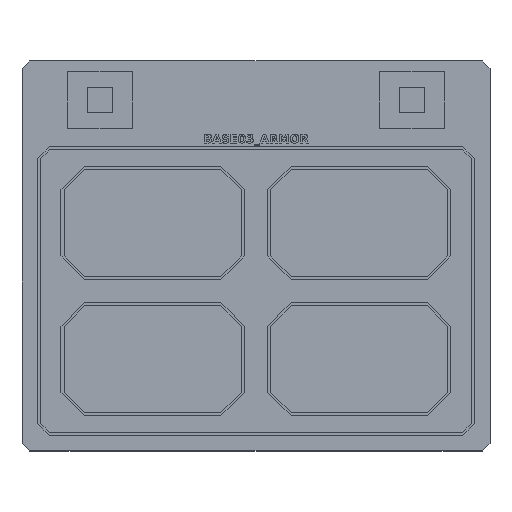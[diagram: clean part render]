
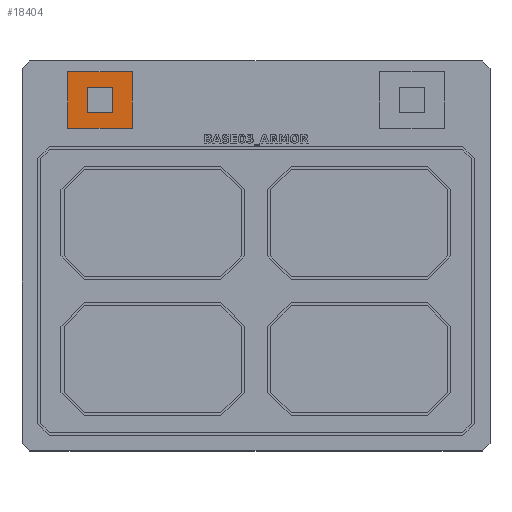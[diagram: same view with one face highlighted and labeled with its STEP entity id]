
A CAD part, top view. The second image highlights one B-rep face of the part: STEP entity #18404.
In plain terms, the highlighted planar face has unit normal (0, 0, 1).
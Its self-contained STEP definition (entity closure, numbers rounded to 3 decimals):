
#2453 = PLANE('',#2454);
#2454 = AXIS2_PLACEMENT_3D('',#2455,#2456,#2457);
#2455 = CARTESIAN_POINT('',(11.7,82.7,6.));
#2456 = DIRECTION('',(-0.,1.,0.));
#2457 = DIRECTION('',(0.,0.,1.));
#2479 = PLANE('',#2480);
#2480 = AXIS2_PLACEMENT_3D('',#2481,#2482,#2483);
#2481 = CARTESIAN_POINT('',(11.7,82.7,6.));
#2482 = DIRECTION('',(1.,0.,-0.));
#2483 = DIRECTION('',(0.,0.,1.));
#2505 = PLANE('',#2506);
#2506 = AXIS2_PLACEMENT_3D('',#2507,#2508,#2509);
#2507 = CARTESIAN_POINT('',(11.7,97.3,6.));
#2508 = DIRECTION('',(-0.,1.,0.));
#2509 = DIRECTION('',(0.,0.,1.));
#2529 = PLANE('',#2530);
#2530 = AXIS2_PLACEMENT_3D('',#2531,#2532,#2533);
#2531 = CARTESIAN_POINT('',(28.3,82.7,6.));
#2532 = DIRECTION('',(1.,0.,-0.));
#2533 = DIRECTION('',(0.,0.,1.));
#9783 = VERTEX_POINT('',#9784);
#9784 = CARTESIAN_POINT('',(28.3,82.7,6.));
#9805 = EDGE_CURVE('',#9806,#9783,#9808,.T.);
#9806 = VERTEX_POINT('',#9807);
#9807 = CARTESIAN_POINT('',(11.7,82.7,6.));
#9808 = SURFACE_CURVE('',#9809,(#9813,#9820),.PCURVE_S1.);
#9809 = LINE('',#9810,#9811);
#9810 = CARTESIAN_POINT('',(11.7,82.7,6.));
#9811 = VECTOR('',#9812,1.);
#9812 = DIRECTION('',(1.,0.,-0.));
#9813 = PCURVE('',#2453,#9814);
#9814 = DEFINITIONAL_REPRESENTATION('',(#9815),#9819);
#9815 = LINE('',#9816,#9817);
#9816 = CARTESIAN_POINT('',(0.,0.));
#9817 = VECTOR('',#9818,1.);
#9818 = DIRECTION('',(0.,1.));
#9819 = ( GEOMETRIC_REPRESENTATION_CONTEXT(2) 
PARAMETRIC_REPRESENTATION_CONTEXT() REPRESENTATION_CONTEXT('2D SPACE',''
  ) );
#9820 = PCURVE('',#9821,#9826);
#9821 = PLANE('',#9822);
#9822 = AXIS2_PLACEMENT_3D('',#9823,#9824,#9825);
#9823 = CARTESIAN_POINT('',(11.7,82.7,6.));
#9824 = DIRECTION('',(0.,0.,1.));
#9825 = DIRECTION('',(1.,0.,-0.));
#9826 = DEFINITIONAL_REPRESENTATION('',(#9827),#9831);
#9827 = LINE('',#9828,#9829);
#9828 = CARTESIAN_POINT('',(0.,0.));
#9829 = VECTOR('',#9830,1.);
#9830 = DIRECTION('',(1.,0.));
#9831 = ( GEOMETRIC_REPRESENTATION_CONTEXT(2) 
PARAMETRIC_REPRESENTATION_CONTEXT() REPRESENTATION_CONTEXT('2D SPACE',''
  ) );
#9859 = EDGE_CURVE('',#9783,#9860,#9862,.T.);
#9860 = VERTEX_POINT('',#9861);
#9861 = CARTESIAN_POINT('',(28.3,97.3,6.));
#9862 = SURFACE_CURVE('',#9863,(#9867,#9874),.PCURVE_S1.);
#9863 = LINE('',#9864,#9865);
#9864 = CARTESIAN_POINT('',(28.3,82.7,6.));
#9865 = VECTOR('',#9866,1.);
#9866 = DIRECTION('',(-0.,1.,0.));
#9867 = PCURVE('',#2529,#9868);
#9868 = DEFINITIONAL_REPRESENTATION('',(#9869),#9873);
#9869 = LINE('',#9870,#9871);
#9870 = CARTESIAN_POINT('',(0.,0.));
#9871 = VECTOR('',#9872,1.);
#9872 = DIRECTION('',(0.,-1.));
#9873 = ( GEOMETRIC_REPRESENTATION_CONTEXT(2) 
PARAMETRIC_REPRESENTATION_CONTEXT() REPRESENTATION_CONTEXT('2D SPACE',''
  ) );
#9874 = PCURVE('',#9821,#9875);
#9875 = DEFINITIONAL_REPRESENTATION('',(#9876),#9880);
#9876 = LINE('',#9877,#9878);
#9877 = CARTESIAN_POINT('',(16.6,0.));
#9878 = VECTOR('',#9879,1.);
#9879 = DIRECTION('',(0.,1.));
#9880 = ( GEOMETRIC_REPRESENTATION_CONTEXT(2) 
PARAMETRIC_REPRESENTATION_CONTEXT() REPRESENTATION_CONTEXT('2D SPACE',''
  ) );
#9908 = EDGE_CURVE('',#9806,#9909,#9911,.T.);
#9909 = VERTEX_POINT('',#9910);
#9910 = CARTESIAN_POINT('',(11.7,97.3,6.));
#9911 = SURFACE_CURVE('',#9912,(#9916,#9923),.PCURVE_S1.);
#9912 = LINE('',#9913,#9914);
#9913 = CARTESIAN_POINT('',(11.7,82.7,6.));
#9914 = VECTOR('',#9915,1.);
#9915 = DIRECTION('',(-0.,1.,0.));
#9916 = PCURVE('',#2479,#9917);
#9917 = DEFINITIONAL_REPRESENTATION('',(#9918),#9922);
#9918 = LINE('',#9919,#9920);
#9919 = CARTESIAN_POINT('',(0.,0.));
#9920 = VECTOR('',#9921,1.);
#9921 = DIRECTION('',(0.,-1.));
#9922 = ( GEOMETRIC_REPRESENTATION_CONTEXT(2) 
PARAMETRIC_REPRESENTATION_CONTEXT() REPRESENTATION_CONTEXT('2D SPACE',''
  ) );
#9923 = PCURVE('',#9821,#9924);
#9924 = DEFINITIONAL_REPRESENTATION('',(#9925),#9929);
#9925 = LINE('',#9926,#9927);
#9926 = CARTESIAN_POINT('',(0.,0.));
#9927 = VECTOR('',#9928,1.);
#9928 = DIRECTION('',(0.,1.));
#9929 = ( GEOMETRIC_REPRESENTATION_CONTEXT(2) 
PARAMETRIC_REPRESENTATION_CONTEXT() REPRESENTATION_CONTEXT('2D SPACE',''
  ) );
#9957 = EDGE_CURVE('',#9909,#9860,#9958,.T.);
#9958 = SURFACE_CURVE('',#9959,(#9963,#9970),.PCURVE_S1.);
#9959 = LINE('',#9960,#9961);
#9960 = CARTESIAN_POINT('',(11.7,97.3,6.));
#9961 = VECTOR('',#9962,1.);
#9962 = DIRECTION('',(1.,0.,-0.));
#9963 = PCURVE('',#2505,#9964);
#9964 = DEFINITIONAL_REPRESENTATION('',(#9965),#9969);
#9965 = LINE('',#9966,#9967);
#9966 = CARTESIAN_POINT('',(0.,0.));
#9967 = VECTOR('',#9968,1.);
#9968 = DIRECTION('',(0.,1.));
#9969 = ( GEOMETRIC_REPRESENTATION_CONTEXT(2) 
PARAMETRIC_REPRESENTATION_CONTEXT() REPRESENTATION_CONTEXT('2D SPACE',''
  ) );
#9970 = PCURVE('',#9821,#9971);
#9971 = DEFINITIONAL_REPRESENTATION('',(#9972),#9976);
#9972 = LINE('',#9973,#9974);
#9973 = CARTESIAN_POINT('',(0.,14.6));
#9974 = VECTOR('',#9975,1.);
#9975 = DIRECTION('',(1.,0.));
#9976 = ( GEOMETRIC_REPRESENTATION_CONTEXT(2) 
PARAMETRIC_REPRESENTATION_CONTEXT() REPRESENTATION_CONTEXT('2D SPACE',''
  ) );
#18404 = ADVANCED_FACE('',(#18405,#18411),#9821,.T.);
#18405 = FACE_BOUND('',#18406,.T.);
#18406 = EDGE_LOOP('',(#18407,#18408,#18409,#18410));
#18407 = ORIENTED_EDGE('',*,*,#9908,.F.);
#18408 = ORIENTED_EDGE('',*,*,#9805,.T.);
#18409 = ORIENTED_EDGE('',*,*,#9859,.T.);
#18410 = ORIENTED_EDGE('',*,*,#9957,.F.);
#18411 = FACE_BOUND('',#18412,.T.);
#18412 = EDGE_LOOP('',(#18413,#18441,#18467,#18493));
#18413 = ORIENTED_EDGE('',*,*,#18414,.T.);
#18414 = EDGE_CURVE('',#18415,#18417,#18419,.T.);
#18415 = VERTEX_POINT('',#18416);
#18416 = CARTESIAN_POINT('',(23.3,86.7,6.));
#18417 = VERTEX_POINT('',#18418);
#18418 = CARTESIAN_POINT('',(16.7,86.7,6.));
#18419 = SURFACE_CURVE('',#18420,(#18424,#18430),.PCURVE_S1.);
#18420 = LINE('',#18421,#18422);
#18421 = CARTESIAN_POINT('',(14.2,86.7,6.));
#18422 = VECTOR('',#18423,1.);
#18423 = DIRECTION('',(-1.,-0.,0.));
#18424 = PCURVE('',#9821,#18425);
#18425 = DEFINITIONAL_REPRESENTATION('',(#18426),#18429);
#18426 = B_SPLINE_CURVE_WITH_KNOTS('',1,(#18427,#18428),.UNSPECIFIED.,
  .F.,.F.,(2,2),(-9.1,-2.5),.PIECEWISE_BEZIER_KNOTS.);
#18427 = CARTESIAN_POINT('',(11.6,4.));
#18428 = CARTESIAN_POINT('',(5.,4.));
#18429 = ( GEOMETRIC_REPRESENTATION_CONTEXT(2) 
PARAMETRIC_REPRESENTATION_CONTEXT() REPRESENTATION_CONTEXT('2D SPACE',''
  ) );
#18430 = PCURVE('',#18431,#18436);
#18431 = PLANE('',#18432);
#18432 = AXIS2_PLACEMENT_3D('',#18433,#18434,#18435);
#18433 = CARTESIAN_POINT('',(16.7,86.7,3.));
#18434 = DIRECTION('',(-0.,1.,0.));
#18435 = DIRECTION('',(0.,0.,1.));
#18436 = DEFINITIONAL_REPRESENTATION('',(#18437),#18440);
#18437 = B_SPLINE_CURVE_WITH_KNOTS('',1,(#18438,#18439),.UNSPECIFIED.,
  .F.,.F.,(2,2),(-9.1,-2.5),.PIECEWISE_BEZIER_KNOTS.);
#18438 = CARTESIAN_POINT('',(3.,6.6));
#18439 = CARTESIAN_POINT('',(3.,0.));
#18440 = ( GEOMETRIC_REPRESENTATION_CONTEXT(2) 
PARAMETRIC_REPRESENTATION_CONTEXT() REPRESENTATION_CONTEXT('2D SPACE',''
  ) );
#18441 = ORIENTED_EDGE('',*,*,#18442,.T.);
#18442 = EDGE_CURVE('',#18417,#18443,#18445,.T.);
#18443 = VERTEX_POINT('',#18444);
#18444 = CARTESIAN_POINT('',(16.7,93.3,6.));
#18445 = SURFACE_CURVE('',#18446,(#18450,#18456),.PCURVE_S1.);
#18446 = LINE('',#18447,#18448);
#18447 = CARTESIAN_POINT('',(16.7,84.7,6.));
#18448 = VECTOR('',#18449,1.);
#18449 = DIRECTION('',(-0.,1.,0.));
#18450 = PCURVE('',#9821,#18451);
#18451 = DEFINITIONAL_REPRESENTATION('',(#18452),#18455);
#18452 = B_SPLINE_CURVE_WITH_KNOTS('',1,(#18453,#18454),.UNSPECIFIED.,
  .F.,.F.,(2,2),(2.,8.6),.PIECEWISE_BEZIER_KNOTS.);
#18453 = CARTESIAN_POINT('',(5.,4.));
#18454 = CARTESIAN_POINT('',(5.,10.6));
#18455 = ( GEOMETRIC_REPRESENTATION_CONTEXT(2) 
PARAMETRIC_REPRESENTATION_CONTEXT() REPRESENTATION_CONTEXT('2D SPACE',''
  ) );
#18456 = PCURVE('',#18457,#18462);
#18457 = PLANE('',#18458);
#18458 = AXIS2_PLACEMENT_3D('',#18459,#18460,#18461);
#18459 = CARTESIAN_POINT('',(16.7,86.7,3.));
#18460 = DIRECTION('',(1.,0.,-0.));
#18461 = DIRECTION('',(0.,0.,1.));
#18462 = DEFINITIONAL_REPRESENTATION('',(#18463),#18466);
#18463 = B_SPLINE_CURVE_WITH_KNOTS('',1,(#18464,#18465),.UNSPECIFIED.,
  .F.,.F.,(2,2),(2.,8.6),.PIECEWISE_BEZIER_KNOTS.);
#18464 = CARTESIAN_POINT('',(3.,0.));
#18465 = CARTESIAN_POINT('',(3.,-6.6));
#18466 = ( GEOMETRIC_REPRESENTATION_CONTEXT(2) 
PARAMETRIC_REPRESENTATION_CONTEXT() REPRESENTATION_CONTEXT('2D SPACE',''
  ) );
#18467 = ORIENTED_EDGE('',*,*,#18468,.F.);
#18468 = EDGE_CURVE('',#18469,#18443,#18471,.T.);
#18469 = VERTEX_POINT('',#18470);
#18470 = CARTESIAN_POINT('',(23.3,93.3,6.));
#18471 = SURFACE_CURVE('',#18472,(#18476,#18482),.PCURVE_S1.);
#18472 = LINE('',#18473,#18474);
#18473 = CARTESIAN_POINT('',(14.2,93.3,6.));
#18474 = VECTOR('',#18475,1.);
#18475 = DIRECTION('',(-1.,-0.,0.));
#18476 = PCURVE('',#9821,#18477);
#18477 = DEFINITIONAL_REPRESENTATION('',(#18478),#18481);
#18478 = B_SPLINE_CURVE_WITH_KNOTS('',1,(#18479,#18480),.UNSPECIFIED.,
  .F.,.F.,(2,2),(-9.1,-2.5),.PIECEWISE_BEZIER_KNOTS.);
#18479 = CARTESIAN_POINT('',(11.6,10.6));
#18480 = CARTESIAN_POINT('',(5.,10.6));
#18481 = ( GEOMETRIC_REPRESENTATION_CONTEXT(2) 
PARAMETRIC_REPRESENTATION_CONTEXT() REPRESENTATION_CONTEXT('2D SPACE',''
  ) );
#18482 = PCURVE('',#18483,#18488);
#18483 = PLANE('',#18484);
#18484 = AXIS2_PLACEMENT_3D('',#18485,#18486,#18487);
#18485 = CARTESIAN_POINT('',(16.7,93.3,3.));
#18486 = DIRECTION('',(-0.,1.,0.));
#18487 = DIRECTION('',(0.,0.,1.));
#18488 = DEFINITIONAL_REPRESENTATION('',(#18489),#18492);
#18489 = B_SPLINE_CURVE_WITH_KNOTS('',1,(#18490,#18491),.UNSPECIFIED.,
  .F.,.F.,(2,2),(-9.1,-2.5),.PIECEWISE_BEZIER_KNOTS.);
#18490 = CARTESIAN_POINT('',(3.,6.6));
#18491 = CARTESIAN_POINT('',(3.,0.));
#18492 = ( GEOMETRIC_REPRESENTATION_CONTEXT(2) 
PARAMETRIC_REPRESENTATION_CONTEXT() REPRESENTATION_CONTEXT('2D SPACE',''
  ) );
#18493 = ORIENTED_EDGE('',*,*,#18494,.F.);
#18494 = EDGE_CURVE('',#18415,#18469,#18495,.T.);
#18495 = SURFACE_CURVE('',#18496,(#18500,#18506),.PCURVE_S1.);
#18496 = LINE('',#18497,#18498);
#18497 = CARTESIAN_POINT('',(23.3,84.7,6.));
#18498 = VECTOR('',#18499,1.);
#18499 = DIRECTION('',(-0.,1.,0.));
#18500 = PCURVE('',#9821,#18501);
#18501 = DEFINITIONAL_REPRESENTATION('',(#18502),#18505);
#18502 = B_SPLINE_CURVE_WITH_KNOTS('',1,(#18503,#18504),.UNSPECIFIED.,
  .F.,.F.,(2,2),(2.,8.6),.PIECEWISE_BEZIER_KNOTS.);
#18503 = CARTESIAN_POINT('',(11.6,4.));
#18504 = CARTESIAN_POINT('',(11.6,10.6));
#18505 = ( GEOMETRIC_REPRESENTATION_CONTEXT(2) 
PARAMETRIC_REPRESENTATION_CONTEXT() REPRESENTATION_CONTEXT('2D SPACE',''
  ) );
#18506 = PCURVE('',#18507,#18512);
#18507 = PLANE('',#18508);
#18508 = AXIS2_PLACEMENT_3D('',#18509,#18510,#18511);
#18509 = CARTESIAN_POINT('',(23.3,86.7,3.));
#18510 = DIRECTION('',(1.,0.,-0.));
#18511 = DIRECTION('',(0.,0.,1.));
#18512 = DEFINITIONAL_REPRESENTATION('',(#18513),#18516);
#18513 = B_SPLINE_CURVE_WITH_KNOTS('',1,(#18514,#18515),.UNSPECIFIED.,
  .F.,.F.,(2,2),(2.,8.6),.PIECEWISE_BEZIER_KNOTS.);
#18514 = CARTESIAN_POINT('',(3.,0.));
#18515 = CARTESIAN_POINT('',(3.,-6.6));
#18516 = ( GEOMETRIC_REPRESENTATION_CONTEXT(2) 
PARAMETRIC_REPRESENTATION_CONTEXT() REPRESENTATION_CONTEXT('2D SPACE',''
  ) );
